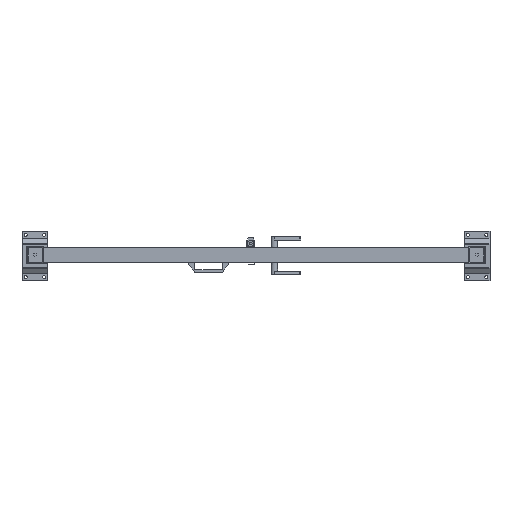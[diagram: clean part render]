
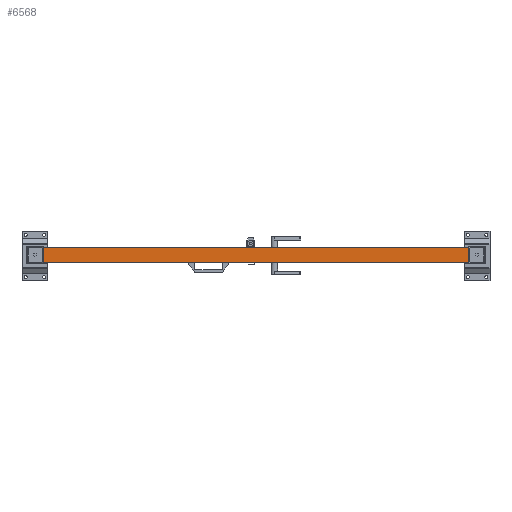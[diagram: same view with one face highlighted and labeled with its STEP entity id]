
A CAD part, top view. The second image highlights one B-rep face of the part: STEP entity #6568.
In plain terms, the highlighted planar face has unit normal (0, 0, 1).
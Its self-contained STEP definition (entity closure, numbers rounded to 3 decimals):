
#843=FACE_OUTER_BOUND('',#1187,.T.);
#1187=EDGE_LOOP('',(#4703,#4704,#4705,#4706));
#1619=LINE('',#9433,#2370);
#1620=LINE('',#9436,#2371);
#1621=LINE('',#9438,#2372);
#1622=LINE('',#9439,#2373);
#2370=VECTOR('',#7573,1.);
#2371=VECTOR('',#7576,1.);
#2372=VECTOR('',#7577,1.);
#2373=VECTOR('',#7578,1.);
#3098=VERTEX_POINT('',#9426);
#3101=VERTEX_POINT('',#9431);
#3102=VERTEX_POINT('',#9435);
#3103=VERTEX_POINT('',#9437);
#3753=EDGE_CURVE('',#3098,#3101,#1619,.T.);
#3754=EDGE_CURVE('',#3102,#3098,#1620,.T.);
#3755=EDGE_CURVE('',#3103,#3101,#1621,.T.);
#3756=EDGE_CURVE('',#3102,#3103,#1622,.T.);
#4703=ORIENTED_EDGE('',*,*,#3754,.T.);
#4704=ORIENTED_EDGE('',*,*,#3753,.T.);
#4705=ORIENTED_EDGE('',*,*,#3755,.F.);
#4706=ORIENTED_EDGE('',*,*,#3756,.F.);
#6298=PLANE('',#6942);
#6568=ADVANCED_FACE('',(#843),#6298,.T.);
#6942=AXIS2_PLACEMENT_3D('',#9434,#7574,#7575);
#7573=DIRECTION('',(1.,0.,0.));
#7574=DIRECTION('center_axis',(0.,0.,1.));
#7575=DIRECTION('ref_axis',(0.,-1.,0.));
#7576=DIRECTION('',(0.,-1.,0.));
#7577=DIRECTION('',(0.,-1.,0.));
#7578=DIRECTION('',(1.,0.,0.));
#9426=CARTESIAN_POINT('',(2042.724,1594.412,2399.));
#9431=CARTESIAN_POINT('',(3682.724,1594.412,2399.));
#9433=CARTESIAN_POINT('',(2042.724,1594.412,2399.));
#9434=CARTESIAN_POINT('Origin',(2042.724,1654.412,2399.));
#9435=CARTESIAN_POINT('',(2042.724,1654.412,2399.));
#9436=CARTESIAN_POINT('',(2042.724,1654.412,2399.));
#9437=CARTESIAN_POINT('',(3682.724,1654.412,2399.));
#9438=CARTESIAN_POINT('',(3682.724,1654.412,2399.));
#9439=CARTESIAN_POINT('',(2042.724,1654.412,2399.));
